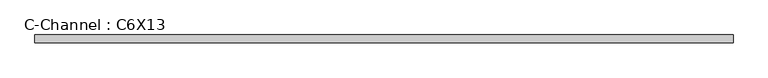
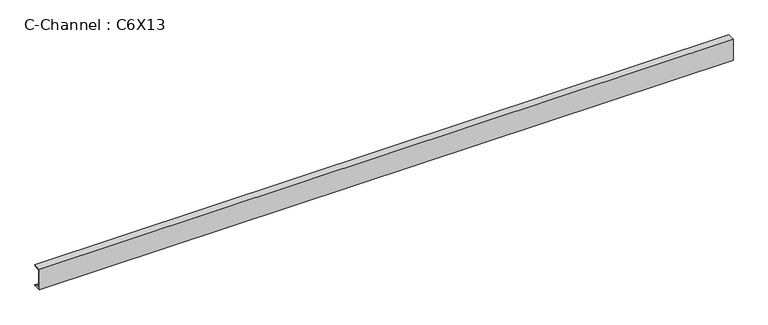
"""IFC4 building model written with IfcOpenShell, lengths in millimetres: beam geometry, C-Channel : C6X13."""

from ifc_helpers import new_model, si_unit, point, frame, frame_2d, origin, place, context, project, spatial, polyline, circle_curve, trimmed, segment, composite_curve, outline, extrude, source, transform, mapped, element, save


def c_channel_c6x13_3f903bd1(model_context):
    return source(origin(), model_context, "Body", "SweptSolid", [
        extrude(outline(composite_curve([segment(polyline([(-13.0556, 76.2), (41.8084, 76.2)]), True, "CONTINUOUS"), segment(trimmed(circle_curve(frame_2d((33.0962, 76.2)), 8.7122), [point((41.8084, 76.2))], [point((33.0962, 67.4878))], False, "CARTESIAN"), True, "CONTINUOUS"), segment(polyline([(33.0962, 67.4878), (-1.9558, 61.9361086), (-1.9558, -61.9361086), (33.0962, -67.4878)]), True, "CONTINUOUS"), segment(trimmed(circle_curve(frame_2d((33.0962, -76.2)), 8.7122), [point((33.0962, -67.4878))], [point((41.8084, -76.2))], False, "CARTESIAN"), True, "CONTINUOUS"), segment(polyline([(41.8084, -76.2), (-13.0556, -76.2), (-13.0556, 76.2)]), True, "CONTINUOUS")], self_intersect=False)), frame((-2415.6589856, 0.0, 0.0), z_axis=(1.0, 0.0, 0.0), x_axis=(0.0, 1.0, 0.0)), (0.0, 0.0, 1.0), 4831.3296367),
    ])


if __name__ == "__main__":
    model = new_model("IFC4")
    model_context = context("Model", 3, world=origin())
    ifc_project = project(units=[si_unit("LENGTHUNIT", "METRE", prefix="MILLI")], contexts=[model_context])
    site = spatial("IfcSite", under=ifc_project)
    building = spatial("IfcBuilding", under=site)
    placement = place(None, origin())
    c_channel_c6x13_shape = c_channel_c6x13_3f903bd1(model_context)
    element("IfcBeam", 1, ObjectType="C-Channel : C6X13", at=placement, inside=building, context=model_context, shape_type="MappedRepresentation", body=[
        mapped(c_channel_c6x13_shape, transform((0.0, 0.0, 0.0), x_axis=(1.0, 0.0, 0.0), y_axis=(0.0, 1.0, 0.0), z_axis=(0.0, 0.0, 1.0))),
    ])
    save(model, "model.ifc")
